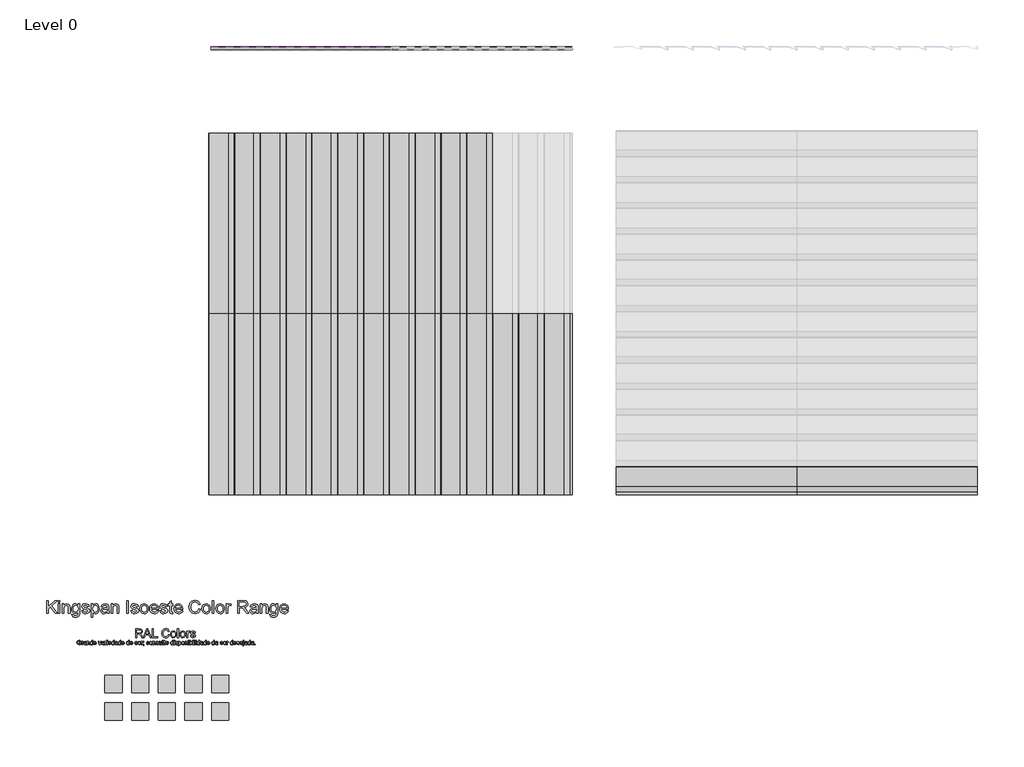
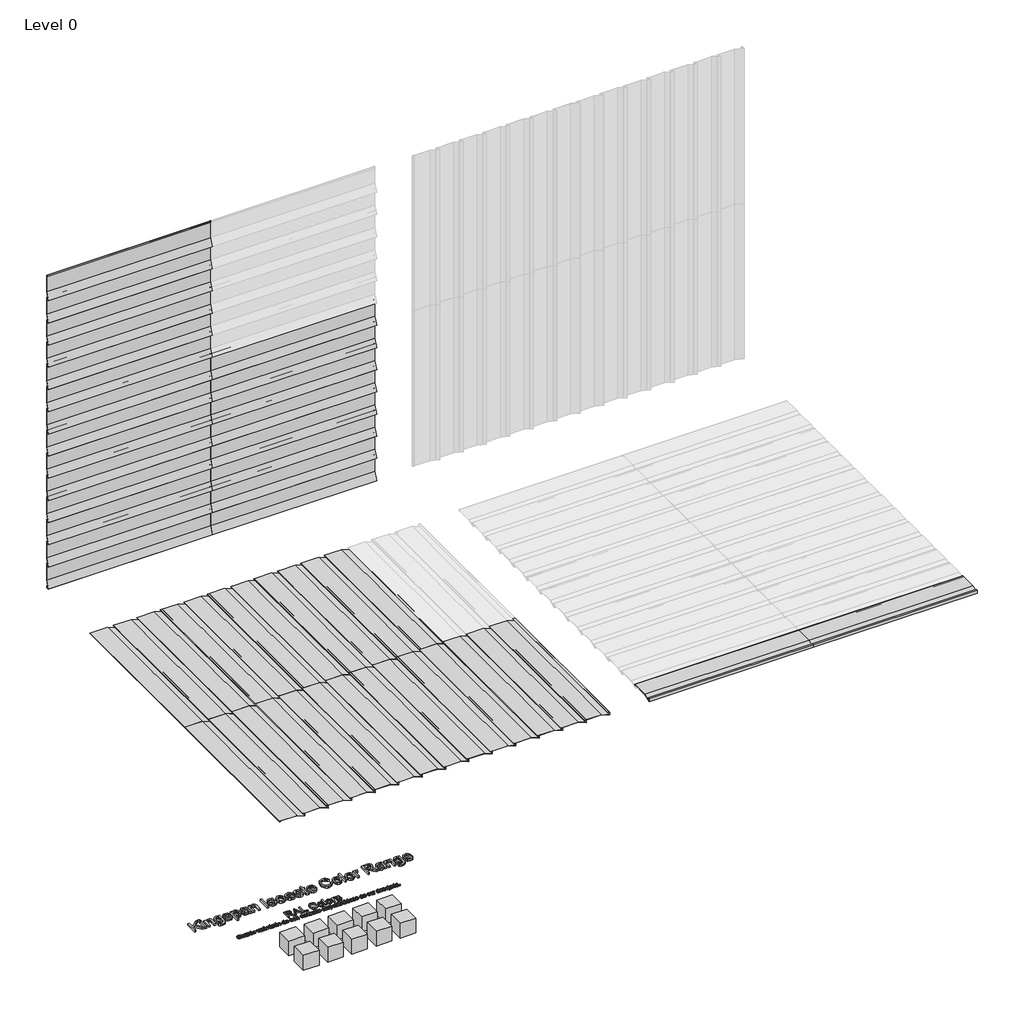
# One storey, part 1 of 2: 60 proxies.
"""IFC4 building model written with IfcOpenShell, lengths in millimetres."""

from ifc_helpers import new_model, si_unit, origin, place, context, project, spatial, transform, mapped, element, save
from components import proxy_32_ks_iso_colour_range_8220f766, proxy_32_ks_iso_colour_range_06d69407, ks_colour_sample_ks_colour_sample_0243efec, ps2_0_standard_panel_ns_86166604, ps2_0_standard_panel_ns_643a3163

model = new_model("IFC4")

# Units and contexts
model_context = context("Model", 3, world=origin())
ifc_project = project(units=[si_unit("LENGTHUNIT", "METRE", prefix="MILLI")], contexts=[model_context])

# Site, building, storey
site = spatial("IfcSite", under=ifc_project)
building = spatial("IfcBuilding", under=site)
storey = spatial("IfcBuildingStorey", under=building, Name="Level 0", Elevation=0.0)

# Proxies
placement = place(None, origin())
proxy_32_ks_iso_colour_range_shape = proxy_32_ks_iso_colour_range_8220f766(model_context)
proxy_32_ks_iso_colour_range_2_shape = proxy_32_ks_iso_colour_range_06d69407(model_context)
element("IfcBuildingElementProxy", 1, Name="32-KS-ISO-Colour Range : Kingspan Isoeste Color Range", ObjectType="32-KS-ISO-Colour Range : Kingspan Isoeste Color Range", at=placement, inside=storey, context=model_context, shape_type="MappedRepresentation", body=[
    mapped(proxy_32_ks_iso_colour_range_shape, transform((-3929.8390717, -2223.0925896, 0.0), x_axis=(1.0, 0.0, 0.0), y_axis=(0.0, 1.0, 0.0), z_axis=(0.0, 0.0, 1.0))),
    mapped(proxy_32_ks_iso_colour_range_2_shape, transform((-3929.8390717, -2223.0925896, 0.0), x_axis=(1.0, 0.0, 0.0), y_axis=(0.0, 1.0, 0.0), z_axis=(0.0, 0.0, 1.0))),
])
ks_colour_sample_ks_colour_sample_shape = ks_colour_sample_ks_colour_sample_0243efec(model_context)
element("IfcBuildingElementProxy", 2, Name="KS_Colour Sample : KS_Colour Sample", ObjectType="KS_Colour Sample : KS_Colour Sample", at=placement, inside=storey, context=model_context, shape_type="MappedRepresentation", body=[
    mapped(ks_colour_sample_ks_colour_sample_shape, transform((-3309.8390717, -2663.0925896, 0.0), x_axis=(1.0, 0.0, 0.0), y_axis=(0.0, 1.0, 0.0), z_axis=(0.0, 0.0, 1.0))),
])
element("IfcBuildingElementProxy", 3, Name="KS_Colour Sample : KS_Colour Sample", ObjectType="KS_Colour Sample : KS_Colour Sample", at=placement, inside=storey, context=model_context, shape_type="MappedRepresentation", body=[
    mapped(ks_colour_sample_ks_colour_sample_shape, transform((-3309.8390717, -2343.0925896, 0.0), x_axis=(1.0, 0.0, 0.0), y_axis=(0.0, 1.0, 0.0), z_axis=(0.0, 0.0, 1.0))),
])
element("IfcBuildingElementProxy", 4, Name="KS_Colour Sample : KS_Colour Sample", ObjectType="KS_Colour Sample : KS_Colour Sample", at=placement, inside=storey, context=model_context, shape_type="MappedRepresentation", body=[
    mapped(ks_colour_sample_ks_colour_sample_shape, transform((-4549.8390717, -2663.0925896, 0.0), x_axis=(1.0, 0.0, 0.0), y_axis=(0.0, 1.0, 0.0), z_axis=(0.0, 0.0, 1.0))),
])
element("IfcBuildingElementProxy", 5, Name="KS_Colour Sample : KS_Colour Sample", ObjectType="KS_Colour Sample : KS_Colour Sample", at=placement, inside=storey, context=model_context, shape_type="MappedRepresentation", body=[
    mapped(ks_colour_sample_ks_colour_sample_shape, transform((-4239.8390717, -2663.0925896, 0.0), x_axis=(1.0, 0.0, 0.0), y_axis=(0.0, 1.0, 0.0), z_axis=(0.0, 0.0, 1.0))),
])
element("IfcBuildingElementProxy", 6, Name="KS_Colour Sample : KS_Colour Sample", ObjectType="KS_Colour Sample : KS_Colour Sample", at=placement, inside=storey, context=model_context, shape_type="MappedRepresentation", body=[
    mapped(ks_colour_sample_ks_colour_sample_shape, transform((-3619.8390717, -2663.0925896, 0.0), x_axis=(1.0, 0.0, 0.0), y_axis=(0.0, 1.0, 0.0), z_axis=(0.0, 0.0, 1.0))),
])
element("IfcBuildingElementProxy", 7, Name="KS_Colour Sample : KS_Colour Sample", ObjectType="KS_Colour Sample : KS_Colour Sample", at=placement, inside=storey, context=model_context, shape_type="MappedRepresentation", body=[
    mapped(ks_colour_sample_ks_colour_sample_shape, transform((-4549.8390717, -2343.0925896, 0.0), x_axis=(1.0, 0.0, 0.0), y_axis=(0.0, 1.0, 0.0), z_axis=(0.0, 0.0, 1.0))),
])
element("IfcBuildingElementProxy", 8, Name="KS_Colour Sample : KS_Colour Sample", ObjectType="KS_Colour Sample : KS_Colour Sample", at=placement, inside=storey, context=model_context, shape_type="MappedRepresentation", body=[
    mapped(ks_colour_sample_ks_colour_sample_shape, transform((-4239.8390717, -2343.0925896, 0.0), x_axis=(1.0, 0.0, 0.0), y_axis=(0.0, 1.0, 0.0), z_axis=(0.0, 0.0, 1.0))),
])
element("IfcBuildingElementProxy", 9, Name="KS_Colour Sample : KS_Colour Sample", ObjectType="KS_Colour Sample : KS_Colour Sample", at=placement, inside=storey, context=model_context, shape_type="MappedRepresentation", body=[
    mapped(ks_colour_sample_ks_colour_sample_shape, transform((-3619.8390717, -2343.0925896, 0.0), x_axis=(1.0, 0.0, 0.0), y_axis=(0.0, 1.0, 0.0), z_axis=(0.0, 0.0, 1.0))),
])
element("IfcBuildingElementProxy", 10, Name="KS_Colour Sample : KS_Colour Sample", ObjectType="KS_Colour Sample : KS_Colour Sample", at=placement, inside=storey, context=model_context, shape_type="MappedRepresentation", body=[
    mapped(ks_colour_sample_ks_colour_sample_shape, transform((-3929.8390717, -2343.0925896, 0.0), x_axis=(1.0, 0.0, 0.0), y_axis=(0.0, 1.0, 0.0), z_axis=(0.0, 0.0, 1.0))),
])
element("IfcBuildingElementProxy", 11, Name="KS_Colour Sample : KS_Colour Sample", ObjectType="KS_Colour Sample : KS_Colour Sample", at=placement, inside=storey, context=model_context, shape_type="MappedRepresentation", body=[
    mapped(ks_colour_sample_ks_colour_sample_shape, transform((-3929.8390717, -2663.0925896, 0.0), x_axis=(1.0, 0.0, 0.0), y_axis=(0.0, 1.0, 0.0), z_axis=(0.0, 0.0, 1.0))),
])
ps2_0_standard_panel_ns_shape = ps2_0_standard_panel_ns_86166604(model_context)
element("IfcBuildingElementProxy", 12, Name="PS2.0 : Standard Panel_NS", ObjectType="PS2.0 : Standard Panel_NS", at=placement, inside=storey, context=model_context, shape_type="MappedRepresentation", body=[
    mapped(ps2_0_standard_panel_ns_shape, transform((-3417.7637295, 5063.0274074, 600.0), x_axis=(1.0, 0.0, 0.0), y_axis=(0.0, 0.0, 1.0), z_axis=(0.0, -1.0, 0.0))),
])
element("IfcBuildingElementProxy", 13, Name="PS2.0 : Standard Panel_NS", ObjectType="PS2.0 : Standard Panel_NS", at=placement, inside=storey, context=model_context, shape_type="MappedRepresentation", body=[
    mapped(ps2_0_standard_panel_ns_shape, transform((-3417.7637295, 5063.0274074, 3000.0), x_axis=(1.0, 0.0, 0.0), y_axis=(0.0, 0.0, 1.0), z_axis=(0.0, -1.0, 0.0))),
])
element("IfcBuildingElementProxy", 14, Name="PS2.0 : Standard Panel_NS", ObjectType="PS2.0 : Standard Panel_NS", at=placement, inside=storey, context=model_context, shape_type="MappedRepresentation", body=[
    mapped(ps2_0_standard_panel_ns_shape, transform((-1317.7637295, 5063.0274074, 600.0), x_axis=(1.0, 0.0, 0.0), y_axis=(0.0, 0.0, 1.0), z_axis=(0.0, -1.0, 0.0))),
])
ps2_0_standard_panel_ns_2_shape = ps2_0_standard_panel_ns_643a3163(model_context)
element("IfcBuildingElementProxy", 15, Name="PS2.0 : Standard Panel_NS", ObjectType="PS2.0 : Standard Panel_NS", at=placement, inside=storey, context=model_context, shape_type="MappedRepresentation", body=[
    mapped(ps2_0_standard_panel_ns_2_shape, transform((182.2362703, -141.6886547, 0.0), x_axis=(0.0, 1.0, 0.0), y_axis=(-1.0, 0.0, 0.0), z_axis=(0.0, 0.0, 1.0))),
])
element("IfcBuildingElementProxy", 16, Name="PS2.0 : Standard Panel_NS", ObjectType="PS2.0 : Standard Panel_NS", at=placement, inside=storey, context=model_context, shape_type="MappedRepresentation", body=[
    mapped(ps2_0_standard_panel_ns_2_shape, transform((-2217.7637297, -141.6886547, 0.0), x_axis=(0.0, 1.0, 0.0), y_axis=(-1.0, 0.0, 0.0), z_axis=(0.0, 0.0, 1.0))),
])
element("IfcBuildingElementProxy", 17, Name="PS2.0 : Standard Panel_NS", ObjectType="PS2.0 : Standard Panel_NS", at=placement, inside=storey, context=model_context, shape_type="MappedRepresentation", body=[
    mapped(ps2_0_standard_panel_ns_2_shape, transform((-2217.7637297, 1958.3113453, 0.0), x_axis=(0.0, 1.0, 0.0), y_axis=(-1.0, 0.0, 0.0), z_axis=(0.0, 0.0, 1.0))),
])
element("IfcBuildingElementProxy", 18, Name="PS2.0 : Standard Panel_NS", ObjectType="PS2.0 : Standard Panel_NS", at=placement, inside=storey, context=model_context, shape_type="MappedRepresentation", body=[
    mapped(ps2_0_standard_panel_ns_shape, transform((-3417.7637295, 5063.0274074, 0.0), x_axis=(1.0, 0.0, 0.0), y_axis=(0.0, 0.0, 1.0), z_axis=(0.0, -1.0, 0.0))),
])
element("IfcBuildingElementProxy", 19, Name="PS2.0 : Standard Panel_NS", ObjectType="PS2.0 : Standard Panel_NS", at=placement, inside=storey, context=model_context, shape_type="MappedRepresentation", body=[
    mapped(ps2_0_standard_panel_ns_shape, transform((-3417.7637295, 5063.0274074, 2400.0), x_axis=(1.0, 0.0, 0.0), y_axis=(0.0, 0.0, 1.0), z_axis=(0.0, -1.0, 0.0))),
])
element("IfcBuildingElementProxy", 20, Name="PS2.0 : Standard Panel_NS", ObjectType="PS2.0 : Standard Panel_NS", at=placement, inside=storey, context=model_context, shape_type="MappedRepresentation", body=[
    mapped(ps2_0_standard_panel_ns_shape, transform((-1317.7637295, 5063.0274074, 0.0), x_axis=(1.0, 0.0, 0.0), y_axis=(0.0, 0.0, 1.0), z_axis=(0.0, -1.0, 0.0))),
])
element("IfcBuildingElementProxy", 21, Name="PS2.0 : Standard Panel_NS", ObjectType="PS2.0 : Standard Panel_NS", at=placement, inside=storey, context=model_context, shape_type="MappedRepresentation", body=[
    mapped(ps2_0_standard_panel_ns_2_shape, transform((-1617.7637297, -141.6886547, 0.0), x_axis=(0.0, 1.0, 0.0), y_axis=(-1.0, 0.0, 0.0), z_axis=(0.0, 0.0, 1.0))),
])
element("IfcBuildingElementProxy", 22, Name="PS2.0 : Standard Panel_NS", ObjectType="PS2.0 : Standard Panel_NS", at=placement, inside=storey, context=model_context, shape_type="MappedRepresentation", body=[
    mapped(ps2_0_standard_panel_ns_2_shape, transform((1289.7088668, -141.6886547, 0.0), x_axis=(1.0, 0.0, 0.0), y_axis=(0.0, 1.0, 0.0), z_axis=(0.0, 0.0, 1.0))),
])
element("IfcBuildingElementProxy", 23, Name="PS2.0 : Standard Panel_NS", ObjectType="PS2.0 : Standard Panel_NS", at=placement, inside=storey, context=model_context, shape_type="MappedRepresentation", body=[
    mapped(ps2_0_standard_panel_ns_2_shape, transform((-1617.7637297, 1958.3113453, 0.0), x_axis=(0.0, 1.0, 0.0), y_axis=(-1.0, 0.0, 0.0), z_axis=(0.0, 0.0, 1.0))),
])
element("IfcBuildingElementProxy", 24, Name="PS2.0 : Standard Panel_NS", ObjectType="PS2.0 : Standard Panel_NS", at=placement, inside=storey, context=model_context, shape_type="MappedRepresentation", body=[
    mapped(ps2_0_standard_panel_ns_2_shape, transform((3389.7088668, -141.6886547, 0.0), x_axis=(1.0, 0.0, 0.0), y_axis=(0.0, 1.0, 0.0), z_axis=(0.0, 0.0, 1.0))),
])
element("IfcBuildingElementProxy", 25, Name="PS2.0 : Standard Panel_NS", ObjectType="PS2.0 : Standard Panel_NS", at=placement, inside=storey, context=model_context, shape_type="MappedRepresentation", body=[
    mapped(ps2_0_standard_panel_ns_2_shape, transform((782.2362705, -141.6886547, 0.0), x_axis=(0.0, 1.0, 0.0), y_axis=(-1.0, 0.0, 0.0), z_axis=(0.0, 0.0, 1.0))),
])
element("IfcBuildingElementProxy", 26, Name="PS2.0 : Standard Panel_NS", ObjectType="PS2.0 : Standard Panel_NS", at=placement, inside=storey, context=model_context, shape_type="MappedRepresentation", body=[
    mapped(ps2_0_standard_panel_ns_2_shape, transform((-3117.7637295, -141.6886547, 0.0), x_axis=(0.0, 1.0, 0.0), y_axis=(-1.0, 0.0, 0.0), z_axis=(0.0, 0.0, 1.0))),
])
element("IfcBuildingElementProxy", 27, Name="PS2.0 : Standard Panel_NS", ObjectType="PS2.0 : Standard Panel_NS", at=placement, inside=storey, context=model_context, shape_type="MappedRepresentation", body=[
    mapped(ps2_0_standard_panel_ns_2_shape, transform((-717.7637297, -141.6886547, 0.0), x_axis=(0.0, 1.0, 0.0), y_axis=(-1.0, 0.0, 0.0), z_axis=(0.0, 0.0, 1.0))),
])
element("IfcBuildingElementProxy", 28, Name="PS2.0 : Standard Panel_NS", ObjectType="PS2.0 : Standard Panel_NS", at=placement, inside=storey, context=model_context, shape_type="MappedRepresentation", body=[
    mapped(ps2_0_standard_panel_ns_2_shape, transform((-3117.7637295, 1958.3113453, 0.0), x_axis=(0.0, 1.0, 0.0), y_axis=(-1.0, 0.0, 0.0), z_axis=(0.0, 0.0, 1.0))),
])
element("IfcBuildingElementProxy", 29, Name="PS2.0 : Standard Panel_NS", ObjectType="PS2.0 : Standard Panel_NS", at=placement, inside=storey, context=model_context, shape_type="MappedRepresentation", body=[
    mapped(ps2_0_standard_panel_ns_2_shape, transform((-717.7637297, 1958.3113453, 0.0), x_axis=(0.0, 1.0, 0.0), y_axis=(-1.0, 0.0, 0.0), z_axis=(0.0, 0.0, 1.0))),
])
element("IfcBuildingElementProxy", 30, Name="PS2.0 : Standard Panel_NS", ObjectType="PS2.0 : Standard Panel_NS", at=placement, inside=storey, context=model_context, shape_type="MappedRepresentation", body=[
    mapped(ps2_0_standard_panel_ns_2_shape, transform((482.2362703, -141.6886547, 0.0), x_axis=(0.0, 1.0, 0.0), y_axis=(-1.0, 0.0, 0.0), z_axis=(0.0, 0.0, 1.0))),
])
element("IfcBuildingElementProxy", 31, Name="PS2.0 : Standard Panel_NS", ObjectType="PS2.0 : Standard Panel_NS", at=placement, inside=storey, context=model_context, shape_type="MappedRepresentation", body=[
    mapped(ps2_0_standard_panel_ns_2_shape, transform((-1917.7637297, -141.6886547, 0.0), x_axis=(0.0, 1.0, 0.0), y_axis=(-1.0, 0.0, 0.0), z_axis=(0.0, 0.0, 1.0))),
])
element("IfcBuildingElementProxy", 32, Name="PS2.0 : Standard Panel_NS", ObjectType="PS2.0 : Standard Panel_NS", at=placement, inside=storey, context=model_context, shape_type="MappedRepresentation", body=[
    mapped(ps2_0_standard_panel_ns_2_shape, transform((-1917.7637297, 1958.3113453, 0.0), x_axis=(0.0, 1.0, 0.0), y_axis=(-1.0, 0.0, 0.0), z_axis=(0.0, 0.0, 1.0))),
])
element("IfcBuildingElementProxy", 33, Name="PS2.0 : Standard Panel_NS", ObjectType="PS2.0 : Standard Panel_NS", at=placement, inside=storey, context=model_context, shape_type="MappedRepresentation", body=[
    mapped(ps2_0_standard_panel_ns_2_shape, transform((-117.7637297, -141.6886547, 0.0), x_axis=(0.0, 1.0, 0.0), y_axis=(-1.0, 0.0, 0.0), z_axis=(0.0, 0.0, 1.0))),
])
element("IfcBuildingElementProxy", 34, Name="PS2.0 : Standard Panel_NS", ObjectType="PS2.0 : Standard Panel_NS", at=placement, inside=storey, context=model_context, shape_type="MappedRepresentation", body=[
    mapped(ps2_0_standard_panel_ns_2_shape, transform((-2517.7637297, -141.6886547, 0.0), x_axis=(0.0, 1.0, 0.0), y_axis=(-1.0, 0.0, 0.0), z_axis=(0.0, 0.0, 1.0))),
])
element("IfcBuildingElementProxy", 35, Name="PS2.0 : Standard Panel_NS", ObjectType="PS2.0 : Standard Panel_NS", at=placement, inside=storey, context=model_context, shape_type="MappedRepresentation", body=[
    mapped(ps2_0_standard_panel_ns_2_shape, transform((-2517.7637297, 1958.3113453, 0.0), x_axis=(0.0, 1.0, 0.0), y_axis=(-1.0, 0.0, 0.0), z_axis=(0.0, 0.0, 1.0))),
])
element("IfcBuildingElementProxy", 36, Name="PS2.0 : Standard Panel_NS", ObjectType="PS2.0 : Standard Panel_NS", at=placement, inside=storey, context=model_context, shape_type="MappedRepresentation", body=[
    mapped(ps2_0_standard_panel_ns_2_shape, transform((-117.7637297, 1958.3113453, 0.0), x_axis=(0.0, 1.0, 0.0), y_axis=(-1.0, 0.0, 0.0), z_axis=(0.0, 0.0, 1.0))),
])
element("IfcBuildingElementProxy", 37, Name="PS2.0 : Standard Panel_NS", ObjectType="PS2.0 : Standard Panel_NS", at=placement, inside=storey, context=model_context, shape_type="MappedRepresentation", body=[
    mapped(ps2_0_standard_panel_ns_2_shape, transform((-417.7637297, -141.6886547, 0.0), x_axis=(0.0, 1.0, 0.0), y_axis=(-1.0, 0.0, 0.0), z_axis=(0.0, 0.0, 1.0))),
])
element("IfcBuildingElementProxy", 38, Name="PS2.0 : Standard Panel_NS", ObjectType="PS2.0 : Standard Panel_NS", at=placement, inside=storey, context=model_context, shape_type="MappedRepresentation", body=[
    mapped(ps2_0_standard_panel_ns_2_shape, transform((-2817.7637297, -141.6886547, 0.0), x_axis=(0.0, 1.0, 0.0), y_axis=(-1.0, 0.0, 0.0), z_axis=(0.0, 0.0, 1.0))),
])
element("IfcBuildingElementProxy", 39, Name="PS2.0 : Standard Panel_NS", ObjectType="PS2.0 : Standard Panel_NS", at=placement, inside=storey, context=model_context, shape_type="MappedRepresentation", body=[
    mapped(ps2_0_standard_panel_ns_2_shape, transform((-2817.7637297, 1958.3113453, 0.0), x_axis=(0.0, 1.0, 0.0), y_axis=(-1.0, 0.0, 0.0), z_axis=(0.0, 0.0, 1.0))),
])
element("IfcBuildingElementProxy", 40, Name="PS2.0 : Standard Panel_NS", ObjectType="PS2.0 : Standard Panel_NS", at=placement, inside=storey, context=model_context, shape_type="MappedRepresentation", body=[
    mapped(ps2_0_standard_panel_ns_2_shape, transform((-417.7637297, 1958.3113453, 0.0), x_axis=(0.0, 1.0, 0.0), y_axis=(-1.0, 0.0, 0.0), z_axis=(0.0, 0.0, 1.0))),
])
element("IfcBuildingElementProxy", 41, Name="PS2.0 : Standard Panel_NS", ObjectType="PS2.0 : Standard Panel_NS", at=placement, inside=storey, context=model_context, shape_type="MappedRepresentation", body=[
    mapped(ps2_0_standard_panel_ns_2_shape, transform((-1017.7637297, -141.6886547, 0.0), x_axis=(0.0, 1.0, 0.0), y_axis=(-1.0, 0.0, 0.0), z_axis=(0.0, 0.0, 1.0))),
])
element("IfcBuildingElementProxy", 42, Name="PS2.0 : Standard Panel_NS", ObjectType="PS2.0 : Standard Panel_NS", at=placement, inside=storey, context=model_context, shape_type="MappedRepresentation", body=[
    mapped(ps2_0_standard_panel_ns_2_shape, transform((-1017.7637297, 1958.3113453, 0.0), x_axis=(0.0, 1.0, 0.0), y_axis=(-1.0, 0.0, 0.0), z_axis=(0.0, 0.0, 1.0))),
])
element("IfcBuildingElementProxy", 43, Name="PS2.0 : Standard Panel_NS", ObjectType="PS2.0 : Standard Panel_NS", at=placement, inside=storey, context=model_context, shape_type="MappedRepresentation", body=[
    mapped(ps2_0_standard_panel_ns_2_shape, transform((-1317.7637297, -141.6886547, 0.0), x_axis=(0.0, 1.0, 0.0), y_axis=(-1.0, 0.0, 0.0), z_axis=(0.0, 0.0, 1.0))),
])
element("IfcBuildingElementProxy", 44, Name="PS2.0 : Standard Panel_NS", ObjectType="PS2.0 : Standard Panel_NS", at=placement, inside=storey, context=model_context, shape_type="MappedRepresentation", body=[
    mapped(ps2_0_standard_panel_ns_2_shape, transform((-1317.7637297, 1958.3113453, 0.0), x_axis=(0.0, 1.0, 0.0), y_axis=(-1.0, 0.0, 0.0), z_axis=(0.0, 0.0, 1.0))),
])
element("IfcBuildingElementProxy", 45, Name="PS2.0 : Standard Panel_NS", ObjectType="PS2.0 : Standard Panel_NS", at=placement, inside=storey, context=model_context, shape_type="MappedRepresentation", body=[
    mapped(ps2_0_standard_panel_ns_shape, transform((-3417.7637295, 5063.0274074, 300.0), x_axis=(1.0, 0.0, 0.0), y_axis=(0.0, 0.0, 1.0), z_axis=(0.0, -1.0, 0.0))),
])
element("IfcBuildingElementProxy", 46, Name="PS2.0 : Standard Panel_NS", ObjectType="PS2.0 : Standard Panel_NS", at=placement, inside=storey, context=model_context, shape_type="MappedRepresentation", body=[
    mapped(ps2_0_standard_panel_ns_shape, transform((-3417.7637295, 5063.0274074, 2700.0), x_axis=(1.0, 0.0, 0.0), y_axis=(0.0, 0.0, 1.0), z_axis=(0.0, -1.0, 0.0))),
])
element("IfcBuildingElementProxy", 47, Name="PS2.0 : Standard Panel_NS", ObjectType="PS2.0 : Standard Panel_NS", at=placement, inside=storey, context=model_context, shape_type="MappedRepresentation", body=[
    mapped(ps2_0_standard_panel_ns_shape, transform((-1317.7637295, 5063.0274074, 300.0), x_axis=(1.0, 0.0, 0.0), y_axis=(0.0, 0.0, 1.0), z_axis=(0.0, -1.0, 0.0))),
])
element("IfcBuildingElementProxy", 48, Name="PS2.0 : Standard Panel_NS", ObjectType="PS2.0 : Standard Panel_NS", at=placement, inside=storey, context=model_context, shape_type="MappedRepresentation", body=[
    mapped(ps2_0_standard_panel_ns_shape, transform((-3417.7637295, 5063.0274074, 900.0), x_axis=(1.0, 0.0, 0.0), y_axis=(0.0, 0.0, 1.0), z_axis=(0.0, -1.0, 0.0))),
])
element("IfcBuildingElementProxy", 49, Name="PS2.0 : Standard Panel_NS", ObjectType="PS2.0 : Standard Panel_NS", at=placement, inside=storey, context=model_context, shape_type="MappedRepresentation", body=[
    mapped(ps2_0_standard_panel_ns_shape, transform((-3417.7637295, 5063.0274074, 3300.0), x_axis=(1.0, 0.0, 0.0), y_axis=(0.0, 0.0, 1.0), z_axis=(0.0, -1.0, 0.0))),
])
element("IfcBuildingElementProxy", 50, Name="PS2.0 : Standard Panel_NS", ObjectType="PS2.0 : Standard Panel_NS", at=placement, inside=storey, context=model_context, shape_type="MappedRepresentation", body=[
    mapped(ps2_0_standard_panel_ns_shape, transform((-1317.7637295, 5063.0274074, 900.0), x_axis=(1.0, 0.0, 0.0), y_axis=(0.0, 0.0, 1.0), z_axis=(0.0, -1.0, 0.0))),
])
element("IfcBuildingElementProxy", 51, Name="PS2.0 : Standard Panel_NS", ObjectType="PS2.0 : Standard Panel_NS", at=placement, inside=storey, context=model_context, shape_type="MappedRepresentation", body=[
    mapped(ps2_0_standard_panel_ns_shape, transform((-3417.7637295, 5063.0274074, 1200.0), x_axis=(1.0, 0.0, 0.0), y_axis=(0.0, 0.0, 1.0), z_axis=(0.0, -1.0, 0.0))),
])
element("IfcBuildingElementProxy", 52, Name="PS2.0 : Standard Panel_NS", ObjectType="PS2.0 : Standard Panel_NS", at=placement, inside=storey, context=model_context, shape_type="MappedRepresentation", body=[
    mapped(ps2_0_standard_panel_ns_shape, transform((-3417.7637295, 5063.0274074, 3600.0), x_axis=(1.0, 0.0, 0.0), y_axis=(0.0, 0.0, 1.0), z_axis=(0.0, -1.0, 0.0))),
])
element("IfcBuildingElementProxy", 53, Name="PS2.0 : Standard Panel_NS", ObjectType="PS2.0 : Standard Panel_NS", at=placement, inside=storey, context=model_context, shape_type="MappedRepresentation", body=[
    mapped(ps2_0_standard_panel_ns_shape, transform((-1317.7637295, 5063.0274074, 1200.0), x_axis=(1.0, 0.0, 0.0), y_axis=(0.0, 0.0, 1.0), z_axis=(0.0, -1.0, 0.0))),
])
element("IfcBuildingElementProxy", 54, Name="PS2.0 : Standard Panel_NS", ObjectType="PS2.0 : Standard Panel_NS", at=placement, inside=storey, context=model_context, shape_type="MappedRepresentation", body=[
    mapped(ps2_0_standard_panel_ns_shape, transform((-3417.7637295, 5063.0274074, 1500.0), x_axis=(1.0, 0.0, 0.0), y_axis=(0.0, 0.0, 1.0), z_axis=(0.0, -1.0, 0.0))),
])
element("IfcBuildingElementProxy", 55, Name="PS2.0 : Standard Panel_NS", ObjectType="PS2.0 : Standard Panel_NS", at=placement, inside=storey, context=model_context, shape_type="MappedRepresentation", body=[
    mapped(ps2_0_standard_panel_ns_shape, transform((-3417.7637295, 5063.0274074, 3900.0), x_axis=(1.0, 0.0, 0.0), y_axis=(0.0, 0.0, 1.0), z_axis=(0.0, -1.0, 0.0))),
])
element("IfcBuildingElementProxy", 56, Name="PS2.0 : Standard Panel_NS", ObjectType="PS2.0 : Standard Panel_NS", at=placement, inside=storey, context=model_context, shape_type="MappedRepresentation", body=[
    mapped(ps2_0_standard_panel_ns_shape, transform((-1317.7637295, 5063.0274074, 1500.0), x_axis=(1.0, 0.0, 0.0), y_axis=(0.0, 0.0, 1.0), z_axis=(0.0, -1.0, 0.0))),
])
element("IfcBuildingElementProxy", 57, Name="PS2.0 : Standard Panel_NS", ObjectType="PS2.0 : Standard Panel_NS", at=placement, inside=storey, context=model_context, shape_type="MappedRepresentation", body=[
    mapped(ps2_0_standard_panel_ns_shape, transform((-3417.7637295, 5063.0274074, 1800.0), x_axis=(1.0, 0.0, 0.0), y_axis=(0.0, 0.0, 1.0), z_axis=(0.0, -1.0, 0.0))),
])
element("IfcBuildingElementProxy", 58, Name="PS2.0 : Standard Panel_NS", ObjectType="PS2.0 : Standard Panel_NS", at=placement, inside=storey, context=model_context, shape_type="MappedRepresentation", body=[
    mapped(ps2_0_standard_panel_ns_shape, transform((-1317.7637295, 5063.0274074, 1800.0), x_axis=(1.0, 0.0, 0.0), y_axis=(0.0, 0.0, 1.0), z_axis=(0.0, -1.0, 0.0))),
])
element("IfcBuildingElementProxy", 59, Name="PS2.0 : Standard Panel_NS", ObjectType="PS2.0 : Standard Panel_NS", at=placement, inside=storey, context=model_context, shape_type="MappedRepresentation", body=[
    mapped(ps2_0_standard_panel_ns_shape, transform((-3417.7637295, 5063.0274074, 2100.0), x_axis=(1.0, 0.0, 0.0), y_axis=(0.0, 0.0, 1.0), z_axis=(0.0, -1.0, 0.0))),
])
element("IfcBuildingElementProxy", 60, Name="PS2.0 : Standard Panel_NS", ObjectType="PS2.0 : Standard Panel_NS", at=placement, inside=storey, context=model_context, shape_type="MappedRepresentation", body=[
    mapped(ps2_0_standard_panel_ns_shape, transform((-1317.7637295, 5063.0274074, 2100.0), x_axis=(1.0, 0.0, 0.0), y_axis=(0.0, 0.0, 1.0), z_axis=(0.0, -1.0, 0.0))),
])

save(model, "model.ifc")
